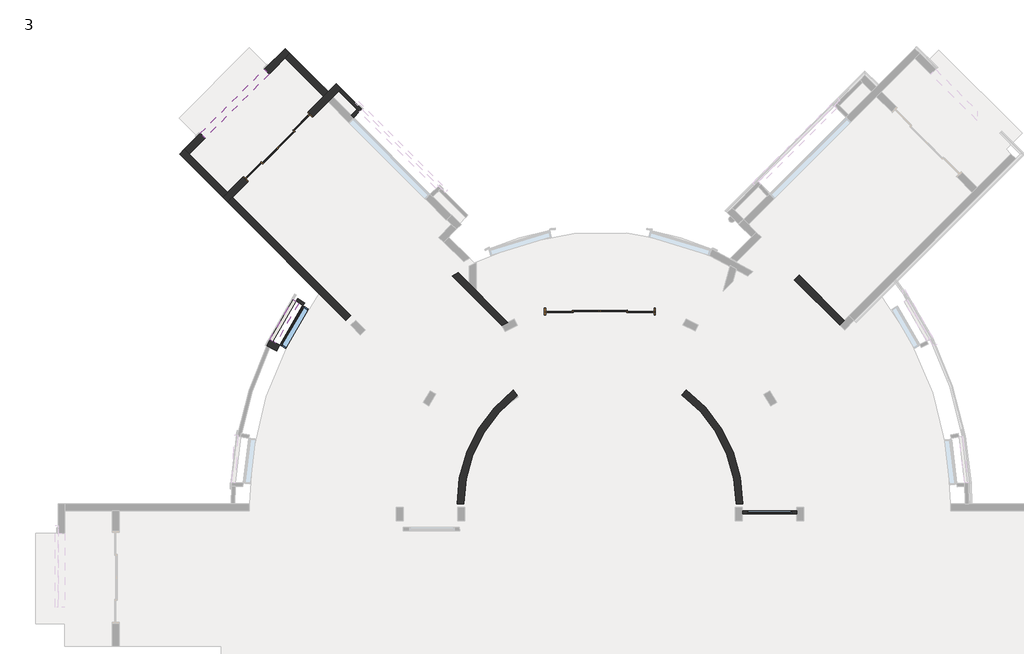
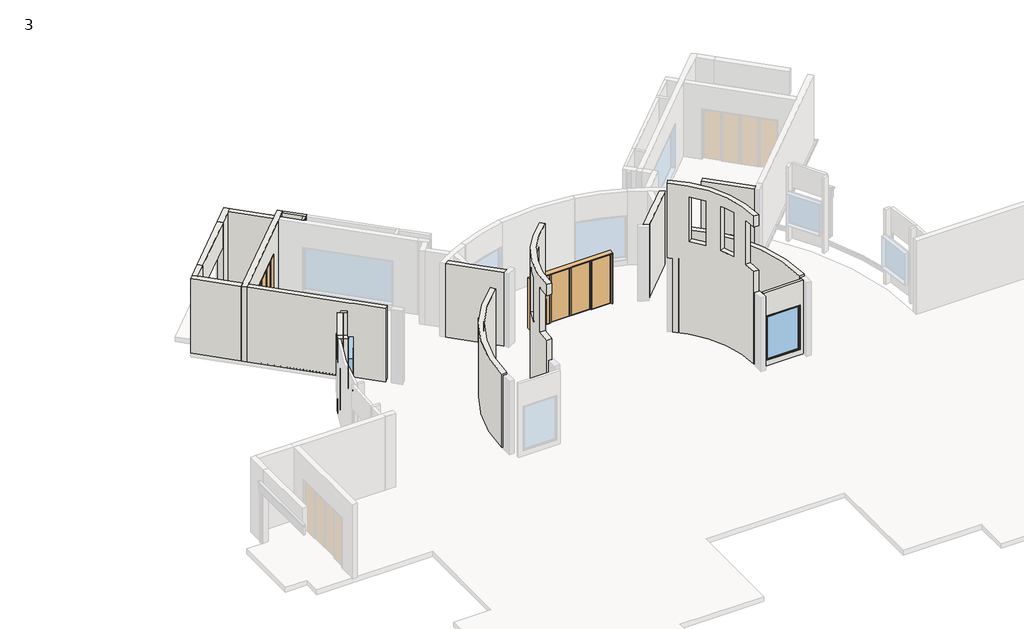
# One storey, part 3 of 12: 21 walls, 2 doors, 2 windows.
"""IFC4 building model written with IfcOpenShell, lengths in millimetres."""

from ifc_helpers import new_model, si_unit, point, frame, frame_2d, origin, place, context, project, spatial, polyline, circle_curve, trimmed, segment, composite_curve, outline, extrude, faceted_brep, transform, mapped, element, save
from ifc_brep_helpers import plane_surface, cylinder_surface, revolved_surface, advanced_brep
from components import aus_sliding_door_4_panel_type_2_6f79207a, aus_sliding_door_4_panel_type_3_7ec97240, fixed_w2_3_782477aa, fixed_w5f_2_3b2bf8fd

model = new_model("IFC4")

# Units and contexts
model_context = context("Model", 3, world=origin())
ifc_project = project(units=[si_unit("LENGTHUNIT", "METRE", prefix="MILLI")], contexts=[model_context])

# Site, building, storey
site = spatial("IfcSite", under=ifc_project)
building = spatial("IfcBuilding", under=site)
storey = spatial("IfcBuildingStorey", under=building, Name="3", Elevation=3581.4)

# Doors
placement = place(None, origin())
aus_sliding_door_4_panel_type_2_shape = aus_sliding_door_4_panel_type_2_6f79207a(model_context)
element("IfcDoor", 1, ObjectType="AUS_Sliding Door 4 Panel : Type 2", at=placement, inside=storey, context=model_context, shape_type="MappedRepresentation", body=[
    mapped(aus_sliding_door_4_panel_type_2_shape, transform((-8478.1790011, 7017.7979283, 3581.4), x_axis=(0.9999998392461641, 0.0005670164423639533, 0.0), y_axis=(-0.0005670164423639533, 0.9999998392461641, 0.0), z_axis=(0.0, 0.0, 1.0))),
])
aus_sliding_door_4_panel_type_3_shape = aus_sliding_door_4_panel_type_3_7ec97240(model_context)
element("IfcDoor", 2, ObjectType="AUS_Sliding Door 4 Panel : Type 3", at=placement, inside=storey, context=model_context, shape_type="MappedRepresentation", body=[
    mapped(aus_sliding_door_4_panel_type_3_shape, transform((-19173.9898785, 12624.9493931, 3581.4), x_axis=(-0.7071067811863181, -0.7071067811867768, 0.0), y_axis=(0.7071067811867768, -0.7071067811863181, 0.0), z_axis=(0.0, 0.0, 1.0))),
])

# Walls
element("IfcWall", 3, ObjectType="115mm  BK WALL 3", at=placement, inside=storey, context=model_context, shape_type="AdvancedBrep", body=[
    advanced_brep(
    [(-3587.7496752, 189.9806689, 3581.4), (-1759.1950906, 189.9806689, 3581.4), (-1759.1950906, 189.9806689, 7162.8), (-3587.7496752, 189.9806689, 7162.8), (-3435.5950906, 189.9806689, 3886.2), (-3435.5950906, 189.9806689, 6019.8), (-1911.5950906, 189.9806689, 6019.8), (-1911.5950906, 189.9806689, 3886.2), (-1759.1950906, 304.2806689, 3581.4), (-3580.8767334, 304.2806689, 3581.4), (-3580.8767334, 304.2806689, 7162.8), (-1759.1950906, 304.2806689, 7162.8), (-3435.5950906, 304.2806689, 6019.8), (-3435.5950906, 304.2806689, 3886.2), (-1911.5950906, 304.2806689, 3886.2), (-1911.5950906, 304.2806689, 6019.8)],
    [
        (0, 1),
        (1, 2),
        (2, 3),
        (3, 0),
        (4, 5),
        (5, 6),
        (6, 7),
        (7, 4),
        (8, 9),
        (9, 10),
        (10, 11),
        (11, 8),
        (12, 13),
        (13, 14),
        (14, 15),
        (15, 12),
        (0, 9, circle_curve(frame((-8388.5950906, 536.0156211, 3581.4), z_axis=(0.0, 0.0, 1.0), x_axis=(1.0, 0.0, 0.0)), 4813.3)),
        (8, 1),
        (11, 2),
        (10, 3, circle_curve(frame((-8388.5950906, 536.0156211, 7162.8), z_axis=(0.0, 0.0, -1.0), x_axis=(1.0, 0.0, 0.0)), 4813.3)),
        (12, 5),
        (4, 13),
        (7, 14),
        (6, 15),
    ],
    [
        plane_surface(frame((-3602.9930034, 189.9806689, 3581.4), z_axis=(0.0, -1.0, 0.0), x_axis=(1.0, 0.0, 0.0))),
        plane_surface(frame((-3602.9930034, 304.2806689, 3581.4), z_axis=(0.0, 1.0, 0.0), x_axis=(-1.0, 0.0, 0.0))),
        plane_surface(frame((-3698.4835264, 189.9806689, 3581.4), z_axis=(0.0, 0.0, -1.0), x_axis=(0.0, 1.0, 0.0))),
        plane_surface(frame((-1759.1950906, 189.9806689, 3581.4), z_axis=(1.0, 0.0, 0.0), x_axis=(0.0, 1.0, 0.0))),
        plane_surface(frame((-1759.1950906, 189.9806689, 7162.8), z_axis=(0.0, 0.0, 1.0), x_axis=(0.0, 1.0, 0.0))),
        revolved_surface(polyline([(-3575.2950905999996, 536.0156211, 7162.8), (-3575.2950905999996, 536.0156211, 3581.4)]), (-8388.5950906, 536.0156211, 3581.4), (0.0, 0.0, 1.0)),
        plane_surface(frame((-3435.5950906, -1219.7193311, 6019.8), z_axis=(1.0, 0.0, 0.0), x_axis=(0.0, 1.0, 0.0))),
        plane_surface(frame((-3435.5950906, -1219.7193311, 3886.2), z_axis=(0.0, 0.0, 1.0), x_axis=(0.0, 1.0, 0.0))),
        plane_surface(frame((-1911.5950906, -1219.7193311, 3886.2), z_axis=(-1.0, 0.0, 0.0), x_axis=(0.0, 1.0, 0.0))),
        plane_surface(frame((-1911.5950906, -1219.7193311, 6019.8), z_axis=(0.0, 0.0, -1.0), x_axis=(0.0, 1.0, 0.0))),
    ],
    [
        (0, [[1, 2, 3, 4], [5, 6, 7, 8]]),
        (1, [[9, 10, 11, 12], [13, 14, 15, 16]]),
        (2, [[-1, 17, -9, 18]]),
        (3, [[-2, -18, -12, 19]]),
        (4, [[-3, -19, -11, 20]]),
        (5, [[-4, -20, -10, -17]]),
        (6, [[21, -5, 22, -13]]),
        (7, [[-22, -8, 23, -14]]),
        (8, [[24, -15, -23, -7]]),
        (9, [[-21, -16, -24, -6]]),
    ],
),
])
element("IfcWall", 4, ObjectType="115mm BK WALL", at=placement, inside=storey, context=model_context, shape_type="Brep", body=[
    faceted_brep([(-17188.1173327, 14449.1773287, 3581.4), (-16571.0750719, 13832.1350679, 3581.4), (-16490.2527668, 13751.3127628, 3581.4), (-16490.2527668, 13751.3127628, 6019.8), (-16490.2527668, 13751.3127628, 7162.8), (-16571.0750719, 13832.1350679, 7162.8), (-17188.1173327, 14449.1773287, 7162.8), (-16409.4304618, 13832.1350679, 3581.4), (-17107.2950276, 14529.9996338, 3581.4), (-17107.2950276, 14529.9996338, 3733.8), (-17107.2950276, 14529.9996338, 3854.45), (-17107.2950276, 14529.9996338, 7162.8), (-16409.4304618, 13832.1350679, 7162.8), (-16409.4304618, 13832.1350679, 6515.1), (-16409.4304618, 13832.1350679, 6019.8), (-16409.4304618, 13832.1350679, 3860.8), (-16409.4304618, 13832.1350679, 3854.45), (-16409.4304618, 13832.1350679, 3733.8)], [[[0, 1, 2, 3, 4, 5, 6]], [[7, 8, 9, 10, 11, 12, 13, 14, 15, 16, 17]], [[2, 1, 0, 8, 7]], [[6, 5, 4, 12, 11]], [[2, 7, 17, 16, 15, 14, 13, 12, 4, 3]], [[0, 6, 11, 10, 9, 8]]]),
])
element("IfcWall", 5, ObjectType="115mm BK WALL", at=placement, inside=storey, context=model_context, shape_type="Brep", body=[
    faceted_brep([(-16571.0750719, 13832.1350679, 7162.8), (-16571.0750719, 13832.1350679, 3581.4), (-16770.3416182, 13632.8685217, 3581.4), (-16770.3416182, 13632.8685217, 7162.8), (-16490.2527668, 13751.3127628, 3581.4), (-16490.2527668, 13751.3127628, 7162.8), (-16689.5193131, 13552.0462166, 7162.8), (-16689.5193131, 13552.0462166, 6019.8), (-16689.5193131, 13552.0462166, 3886.2), (-16689.5193131, 13552.0462166, 3581.4)], [[[0, 1, 2, 3]], [[4, 5, 6, 7, 8, 9]], [[2, 1, 4, 9]], [[0, 3, 6, 5]], [[0, 5, 4, 1]], [[3, 2, 9, 8, 7, 6]]]),
])
element("IfcWall", 6, ObjectType="115mm BK WALL", at=placement, inside=storey, context=model_context, shape_type="SweptSolid", body=[
    extrude(outline(composite_curve([segment(polyline([(-18404.9130327, 7213.1009528), (-18627.5335334, 7363.1057226)]), True, "CONTINUOUS"), segment(trimmed(circle_curve(frame_2d((-8388.5950906, 536.0156211)), 12306.3), [point((-18627.5335334, 7363.1057226))], [point((-18563.6830763, 7457.9087273))], False, "CARTESIAN"), True, "CONTINUOUS"), segment(polyline([(-18563.6830763, 7457.9087273), (-18341.0425501, 7307.8904641)]), True, "CONTINUOUS"), segment(trimmed(circle_curve(frame_2d((-8388.5950906, 532.8806689)), 12039.6), [point((-18341.0425501, 7307.8904641))], [point((-18404.9130327, 7213.1009528))], True, "CARTESIAN"), True, "CONTINUOUS")], self_intersect=False)), frame((0.0, 0.0, 3581.4), z_axis=(0.0, 0.0, 1.0), x_axis=(1.0, 0.0, 0.0)), (0.0, 0.0, 1.0), 3581.4),
])
element("IfcWall", 7, ObjectType="115mm BK WALL 2", at=placement, inside=storey, context=model_context, shape_type="AdvancedBrep", body=[
    advanced_brep(
    [(-18727.2981567, 7419.5120633, 4495.8), (-19513.0216828, 6060.3651171, 4495.8), (-19410.66115, 6009.5044054, 4495.8), (-18632.1567175, 7356.167004, 4495.8), (-19513.0216828, 6060.3651171, 3581.4), (-18727.2981567, 7419.5120633, 3581.4), (-18632.1567175, 7356.167004, 3581.4), (-19410.66115, 6009.5044054, 3581.4), (-18727.2981567, 7419.5120633, 4311.65), (-18727.2981567, 7419.5120633, 3854.45), (-18727.2981567, 7419.5120633, 3733.8), (-19513.0216828, 6060.3651171, 3733.8), (-19513.0216828, 6060.3651171, 3854.45), (-19513.0216828, 6060.3651171, 4311.65)],
    [
        (0, 1, circle_curve(frame((-8388.5950904, 536.015621, 4495.8), z_axis=(0.0, 0.0, 1.0), x_axis=(1.0, 0.0, 0.0)), 12420.6000002)),
        (1, 2),
        (2, 3, circle_curve(frame((-8388.5950904, 536.015621, 4495.8), z_axis=(0.0, 0.0, -1.0), x_axis=(1.0, 0.0, 0.0)), 12306.3000002)),
        (3, 0),
        (4, 5, circle_curve(frame((-8388.5950904, 536.015621, 3581.4), z_axis=(0.0, 0.0, -1.0), x_axis=(1.0, 0.0, 0.0)), 12420.6000002)),
        (5, 6),
        (6, 7, circle_curve(frame((-8388.5950904, 536.015621, 3581.4), z_axis=(0.0, 0.0, 1.0), x_axis=(1.0, 0.0, 0.0)), 12306.3000002)),
        (7, 4),
        (0, 8),
        (8, 9),
        (9, 10),
        (10, 5),
        (4, 11),
        (11, 12),
        (12, 13),
        (13, 1),
        (2, 7),
        (6, 3),
    ],
    [
        plane_surface(frame((4032.0049098, 536.015621, 4495.8), z_axis=(0.0, 0.0, 1.0), x_axis=(0.0, 1.0, 0.0))),
        plane_surface(frame((4032.0049098, 536.015621, 3581.4), z_axis=(0.0, 0.0, -1.0), x_axis=(0.0, -1.0, 0.0))),
        cylinder_surface(frame((-8388.5950904, 536.015621, 3581.4), z_axis=(0.0, 0.0, 1.0), x_axis=(1.0, 0.0, 0.0)), 12420.6000002),
        revolved_surface(polyline([(3917.7049098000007, 536.015621, 3581.4), (3917.7049098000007, 536.015621, 4495.8)]), (-8388.5950904, 536.015621, 3581.4), (0.0, 0.0, -1.0)),
        plane_surface(frame((-18632.1567175, 7356.167004, 4495.8), z_axis=(0.5541999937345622, 0.8323835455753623, 0.0), x_axis=(0.0, 0.0, -1.0))),
        plane_surface(frame((-19410.66115, 6009.5044054, 3581.4), z_axis=(-0.4449755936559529, -0.8955426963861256, 0.0), x_axis=(-0.8955426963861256, 0.4449755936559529, 0.0))),
    ],
    [
        (0, [[1, 2, 3, 4]]),
        (1, [[5, 6, 7, 8]]),
        (2, [[-1, 9, 10, 11, 12, -5, 13, 14, 15, 16]]),
        (3, [[-3, 17, -7, 18]]),
        (4, [[-4, -18, -6, -12, -11, -10, -9]]),
        (5, [[-2, -16, -15, -14, -13, -8, -17]]),
    ],
),
])
element("IfcWall", 8, ObjectType="230mm BK WALL", at=placement, inside=storey, context=model_context, shape_type="Brep", body=[
    faceted_brep([(-16785.2423226, 6882.0295053, 3581.4), (-20770.2537393, 10867.040922, 3581.4), (-20770.2537393, 10867.040922, 7162.8), (-16785.2423226, 6882.0295053, 7162.8), (-20931.8983495, 10705.3963119, 3581.4), (-18277.6696289, 8051.1675913, 3581.4), (-18196.0919007, 7969.589863, 3581.4), (-18004.3403503, 7777.8383126, 3581.4), (-17841.0743596, 7614.5723219, 3581.4), (-16946.8869328, 6720.3848952, 3581.4), (-16946.8869328, 6720.3848952, 7162.8), (-17841.0743596, 7614.5723219, 7162.8), (-18004.3403503, 7777.8383126, 7162.8), (-18196.0919007, 7969.589863, 7162.8), (-18277.6696289, 8051.1675913, 7162.8), (-20931.8983495, 10705.3963119, 7162.8), (-20931.8983495, 10705.3963119, 3854.45), (-20931.8983495, 10705.3963119, 3733.8)], [[[0, 1, 2, 3]], [[4, 5, 6, 7, 8, 9, 10, 11, 12, 13, 14, 15, 16, 17]], [[1, 0, 9, 8, 7, 6, 5, 4]], [[3, 2, 15, 14, 13, 12, 11, 10]], [[0, 3, 10, 9]], [[2, 1, 4, 17, 16, 15]]]),
])
element("IfcWall", 9, ObjectType="230mm BK WALL", at=placement, inside=storey, context=model_context, shape_type="Brep", body=[
    faceted_brep([(-17107.2950276, 14529.9996338, 7162.8), (-17188.1173327, 14449.1773287, 7162.8), (-17387.383879, 14249.9107824, 7162.8), (-17549.0284891, 14088.2661722, 7162.8), (-20770.2537393, 10867.040922, 7162.8), (-20931.8983495, 10705.3963119, 7162.8), (-20931.8983495, 10705.3963119, 3581.4), (-20770.2537393, 10867.040922, 3581.4), (-20259.7226433, 11377.572018, 3581.4), (-20259.7226433, 11377.572018, 6059.8), (-18047.8926318, 13589.4020296, 6059.8), (-18047.8926318, 13589.4020296, 3581.4), (-17549.0284891, 14088.2661722, 3581.4), (-17387.383879, 14249.9107824, 3581.4), (-17188.1173327, 14449.1773287, 3581.4), (-17107.2950276, 14529.9996338, 3581.4), (-17107.2950276, 14529.9996338, 3733.8), (-17107.2950276, 14529.9996338, 3854.45), (-21093.5429597, 10867.040922, 7162.8), (-20931.8983495, 11028.6855322, 7162.8), (-17699.0061459, 14261.5777358, 7162.8), (-17537.3615358, 14423.222346, 7162.8), (-17268.9396378, 14691.644244, 7162.8), (-17268.9396378, 14691.644244, 3854.45), (-17268.9396378, 14691.644244, 3733.8), (-17268.9396378, 14691.644244, 3581.4), (-17537.3615358, 14423.222346, 3581.4), (-17699.0061459, 14261.5777358, 3581.4), (-18209.5372419, 13751.0466398, 3581.4), (-18209.5372419, 13751.0466398, 3733.8), (-18209.5372419, 13751.0466398, 3854.45), (-18209.5372419, 13751.0466398, 6059.8), (-20421.3672535, 11539.2166282, 6059.8), (-20421.3672535, 11539.2166282, 3854.45), (-20421.3672535, 11539.2166282, 3733.8), (-20421.3672535, 11539.2166282, 3581.4), (-20931.8983495, 11028.6855322, 3581.4), (-21093.5429597, 10867.040922, 3581.4)], [[[0, 1, 2, 3, 4, 5, 6, 7, 8, 9, 10, 11, 12, 13, 14, 15, 16, 17]], [[18, 19, 20, 21, 22, 23, 24, 25, 26, 27, 28, 29, 30, 31, 32, 33, 34, 35, 36, 37]], [[6, 37, 36, 35, 8, 7]], [[25, 15, 14, 13, 12, 11, 28, 27, 26]], [[5, 4, 3, 2, 1, 0, 22, 21, 20, 19, 18]], [[6, 5, 18, 37]], [[15, 25, 24, 23, 22, 0, 17, 16]], [[11, 10, 31, 30, 29, 28]], [[32, 31, 10, 9]], [[9, 8, 35, 34, 33, 32]]]),
])
element("IfcWall", 10, ObjectType="230mm BK WALL", at=placement, inside=storey, context=model_context, shape_type="AdvancedBrep", body=[
    advanced_brep(
    [(-13366.0780414, 8204.3327529, 3581.4), (-11699.8714866, 6539.3958793, 3581.4), (-11699.8714866, 6539.3958793, 7162.8), (-13366.0780414, 8204.3327529, 7162.8), (-13167.8230779, 8329.394931, 3581.4), (-13167.8230779, 8329.394931, 7162.8), (-12789.9399757, 7951.7997829, 7162.8), (-12561.3399757, 7723.3739805, 7162.8), (-11488.380409, 6651.2320294, 7162.8), (-11488.380409, 6651.2320294, 3581.4), (-12561.3399757, 7723.3739805, 3581.4), (-12789.9399757, 7951.7997829, 3581.4)],
    [
        (0, 1),
        (1, 2),
        (2, 3),
        (3, 0),
        (4, 5),
        (5, 6),
        (6, 7),
        (7, 8),
        (8, 9),
        (9, 10),
        (10, 11),
        (11, 4),
        (0, 4, circle_curve(frame((-8388.7443851, 533.6818239, 3581.4), z_axis=(0.0, 0.0, -1.0), x_axis=(1.0, 0.0, 0.0)), 9144.0)),
        (9, 1, circle_curve(frame((-8388.7443851, 533.6818239, 3581.4), z_axis=(0.0, 0.0, 1.0), x_axis=(1.0, 0.0, 0.0)), 6857.9999998)),
        (2, 8, circle_curve(frame((-8388.7443851, 533.6818239, 7162.8), z_axis=(0.0, 0.0, -1.0), x_axis=(1.0, 0.0, 0.0)), 6857.9999998)),
        (5, 3, circle_curve(frame((-8388.7443851, 533.6818239, 7162.8), z_axis=(0.0, 0.0, 1.0), x_axis=(1.0, 0.0, 0.0)), 9144.0)),
    ],
    [
        plane_surface(frame((-13224.7079982, 8063.0704363, 3581.4), z_axis=(-0.706837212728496, -0.7073762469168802, 0.0), x_axis=(0.7073762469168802, -0.706837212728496, 0.0))),
        plane_surface(frame((-13063.1250114, 8224.7766464, 3581.4), z_axis=(0.706837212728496, 0.7073762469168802, 0.0), x_axis=(-0.7073762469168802, 0.706837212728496, 0.0))),
        plane_surface(frame((-13431.1664082, 8269.371521, 3581.4), z_axis=(0.0, 0.0, -1.0), x_axis=(0.7068372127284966, 0.7073762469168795, 0.0))),
        plane_surface(frame((-11591.0062677, 6430.6136177, 7162.8), z_axis=(0.0, 0.0, 1.0), x_axis=(0.7068372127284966, 0.7073762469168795, 0.0))),
        revolved_surface(polyline([(-1530.7443853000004, 533.6818239, 7162.8), (-1530.7443853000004, 533.6818239, 3581.4)]), (-8388.7443851, 533.6818239, 3581.4), (0.0, 0.0, 1.0)),
        cylinder_surface(frame((-8388.7443851, 533.6818239, 3581.4), z_axis=(0.0, 0.0, -1.0), x_axis=(1.0, 0.0, 0.0)), 9144.0),
    ],
    [
        (0, [[1, 2, 3, 4]]),
        (1, [[5, 6, 7, 8, 9, 10, 11, 12]]),
        (2, [[-1, 13, -12, -11, -10, 14]]),
        (3, [[-3, 15, -8, -7, -6, 16]]),
        (4, [[-2, -14, -9, -15]]),
        (5, [[-4, -16, -5, -13]]),
    ],
),
])
element("IfcWall", 11, ObjectType="230mm BK WALL", at=placement, inside=storey, context=model_context, shape_type="Brep", body=[
    faceted_brep([(-20931.8983495, 11028.6855322, 3581.4), (-22227.6506425, 12324.4378252, 3581.4), (-22389.2952527, 12486.0824354, 3581.4), (-22389.2952527, 12486.0824354, 3733.8), (-22389.2952527, 12486.0824354, 3854.45), (-22389.2952527, 12486.0824354, 7162.8), (-22227.6506425, 12324.4378252, 7162.8), (-20931.8983495, 11028.6855322, 7162.8), (-22550.9398629, 12324.4378252, 3581.4), (-21093.5429597, 10867.040922, 3581.4), (-21093.5429597, 10867.040922, 3733.8), (-21093.5429597, 10867.040922, 3854.45), (-21093.5429597, 10867.040922, 7162.8), (-22550.9398629, 12324.4378252, 7162.8), (-22550.9398629, 12324.4378252, 3854.45), (-22550.9398629, 12324.4378252, 3733.8)], [[[0, 1, 2, 3, 4, 5, 6, 7]], [[8, 9, 10, 11, 12, 13, 14, 15]], [[2, 1, 0, 9, 8]], [[7, 6, 5, 13, 12]], [[2, 8, 15, 14, 13, 5, 4, 3]], [[0, 7, 12, 11, 10, 9]]]),
])
element("IfcWall", 12, ObjectType="230mm BK WALL", at=placement, inside=storey, context=model_context, shape_type="Brep", body=[
    faceted_brep([(-22227.6506425, 12324.4378252, 3581.4), (-21688.8352753, 12863.2531925, 3581.4), (-21688.8352753, 12863.2531925, 6019.8), (-21688.8352753, 12863.2531925, 7162.8), (-22227.6506425, 12324.4378252, 7162.8), (-22389.2952527, 12486.0824354, 7162.8), (-21850.4798855, 13024.8978027, 7162.8), (-21850.4798855, 13024.8978027, 6515.1), (-21850.4798855, 13024.8978027, 6019.8), (-21850.4798855, 13024.8978027, 3854.45), (-21850.4798855, 13024.8978027, 3733.8), (-21850.4798855, 13024.8978027, 3581.4), (-21980.6935992, 12894.6840889, 3581.4), (-22389.2952527, 12486.0824354, 3581.4), (-22389.2952527, 12486.0824354, 3733.8), (-22389.2952527, 12486.0824354, 3854.45)], [[[0, 1, 2, 3, 4]], [[5, 6, 7, 8, 9, 10, 11, 12, 13, 14, 15]], [[1, 0, 13, 12, 11]], [[3, 2, 1, 11, 10, 9, 8, 7, 6]], [[4, 3, 6, 5]], [[0, 4, 5, 15, 14, 13]]]),
])
element("IfcWall", 13, ObjectType="230mm BK WALL", at=placement, inside=storey, context=model_context, shape_type="Brep", body=[
    faceted_brep([(-19533.5738062, 15018.5146616, 3581.4), (-18994.758439, 15557.3300288, 3581.4), (-18833.1138288, 15718.974639, 3581.4), (-18833.1138288, 15718.974639, 3733.8), (-18833.1138288, 15718.974639, 3854.45), (-18833.1138288, 15718.974639, 7162.8), (-18994.758439, 15557.3300288, 7162.8), (-19533.5738062, 15018.5146616, 7162.8), (-19533.5738062, 15018.5146616, 6019.8), (-19695.2184164, 15180.1592717, 7162.8), (-18994.758439, 15880.6192492, 7162.8), (-18994.758439, 15880.6192492, 3854.45), (-18994.758439, 15880.6192492, 3733.8), (-18994.758439, 15880.6192492, 3581.4), (-19565.0047027, 15310.3729855, 3581.4), (-19695.2184164, 15180.1592717, 3581.4), (-19695.2184164, 15180.1592717, 3733.8), (-19695.2184164, 15180.1592717, 3854.45), (-19695.2184164, 15180.1592717, 6019.8), (-19695.2184164, 15180.1592717, 6515.1)], [[[0, 1, 2, 3, 4, 5, 6, 7, 8]], [[9, 10, 11, 12, 13, 14, 15, 16, 17, 18, 19]], [[2, 1, 0, 15, 14, 13]], [[7, 6, 5, 10, 9]], [[0, 8, 7, 9, 19, 18, 17, 16, 15]], [[2, 13, 12, 11, 10, 5, 4, 3]]]),
])
element("IfcWall", 14, ObjectType="230mm BK WALL", at=placement, inside=storey, context=model_context, shape_type="Brep", body=[
    faceted_brep([(-18994.758439, 15557.3300288, 3581.4), (-17699.0061459, 14261.5777358, 3581.4), (-17699.0061459, 14261.5777358, 7162.8), (-18994.758439, 15557.3300288, 7162.8), (-17537.3615358, 14423.222346, 3581.4), (-18833.1138288, 15718.974639, 3581.4), (-18833.1138288, 15718.974639, 3733.8), (-18833.1138288, 15718.974639, 3854.45), (-18833.1138288, 15718.974639, 7162.8), (-17537.3615358, 14423.222346, 7162.8), (-17537.3615358, 14423.222346, 3854.45), (-17537.3615358, 14423.222346, 3733.8)], [[[0, 1, 2, 3]], [[4, 5, 6, 7, 8, 9, 10, 11]], [[1, 0, 5, 4]], [[3, 2, 9, 8]], [[0, 3, 8, 7, 6, 5]], [[2, 1, 4, 11, 10, 9]]]),
])
element("IfcWall", 15, ObjectType="230mm BK WALL", at=placement, inside=storey, context=model_context, shape_type="AdvancedBrep", body=[
    advanced_brep(
    [(-5075.6425889, 6538.3067485, 3581.4), (-3410.3226967, 8203.6266407, 3581.4), (-3410.3226967, 8203.6266407, 7162.8), (-5075.6425889, 6538.3067485, 7162.8), (-5287.0499288, 6650.188629, 3581.4), (-5287.0499288, 6650.188629, 7162.8), (-4232.6615049, 7704.5770529, 7162.8), (-3909.3722846, 8027.8662732, 7162.8), (-3608.5361768, 8328.702381, 7162.8), (-3608.5361768, 8328.702381, 3581.4), (-3909.3722846, 8027.8662732, 3581.4), (-4232.6615049, 7704.5770529, 3581.4)],
    [
        (0, 1),
        (1, 2),
        (2, 3),
        (3, 0),
        (4, 5),
        (5, 6),
        (6, 7),
        (7, 8),
        (8, 9),
        (9, 10),
        (10, 11),
        (11, 4),
        (0, 4, circle_curve(frame((-8388.7443851, 533.6818239, 3581.4), z_axis=(0.0, 0.0, 1.0), x_axis=(1.0, 0.0, 0.0)), 6857.9999998)),
        (9, 1, circle_curve(frame((-8388.7443851, 533.6818239, 3581.4), z_axis=(0.0, 0.0, -1.0), x_axis=(1.0, 0.0, 0.0)), 9144.0)),
        (2, 8, circle_curve(frame((-8388.7443851, 533.6818239, 7162.8), z_axis=(0.0, 0.0, 1.0), x_axis=(1.0, 0.0, 0.0)), 9144.0)),
        (5, 3, circle_curve(frame((-8388.7443851, 533.6818239, 7162.8), z_axis=(0.0, 0.0, -1.0), x_axis=(1.0, 0.0, 0.0)), 6857.9999998)),
    ],
    [
        plane_surface(frame((-5089.4717419, 6524.4775955, 3581.4), z_axis=(0.7071067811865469, -0.7071067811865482, 0.0), x_axis=(0.7071067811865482, 0.7071067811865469, 0.0))),
        plane_surface(frame((-5251.1163521, 6686.1222057, 3581.4), z_axis=(-0.7071067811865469, 0.7071067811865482, 0.0), x_axis=(-0.7071067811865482, -0.7071067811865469, 0.0))),
        plane_surface(frame((-5184.3847083, 6429.5646291, 3581.4), z_axis=(0.0, 0.0, -1.0), x_axis=(-0.7071067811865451, 0.7071067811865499, 0.0))),
        plane_surface(frame((-3345.2244632, 8268.7248742, 7162.8), z_axis=(0.0, 0.0, 1.0000000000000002), x_axis=(-0.7071067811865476, 0.7071067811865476, 0.0))),
        revolved_surface(polyline([(-1530.7443853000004, 533.6818239, 7162.8), (-1530.7443853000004, 533.6818239, 3581.4)]), (-8388.7443851, 533.6818239, 3581.4), (0.0, 0.0, 1.0)),
        cylinder_surface(frame((-8388.7443851, 533.6818239, 3581.4), z_axis=(0.0, 0.0, -1.0), x_axis=(1.0, 0.0, 0.0)), 9144.0),
    ],
    [
        (0, [[1, 2, 3, 4]]),
        (1, [[5, 6, 7, 8, 9, 10, 11, 12]]),
        (2, [[-1, 13, -12, -11, -10, 14]]),
        (3, [[-3, 15, -8, -7, -6, 16]]),
        (4, [[-4, -16, -5, -13]]),
        (5, [[-2, -14, -9, -15]]),
    ],
),
])
element("IfcWall", 16, ObjectType="230mm BK WALL", at=placement, inside=storey, context=model_context, shape_type="SweptSolid", body=[
    extrude(outline(polyline([(-1678.3727855, 8245.911433), (-153.2193581, 6720.7580057), (-314.8639683, 6559.1133955), (-1840.0173957, 8084.2668229), (-1678.3727855, 8245.911433)])), frame((0.0, 0.0, 3581.4), z_axis=(0.0, 0.0, 1.0), x_axis=(1.0, 0.0, 0.0)), (0.0, 0.0, 1.0), 3581.4),
])
element("IfcWall", 17, ObjectType="230mm BK WALL", at=placement, inside=storey, context=model_context, shape_type="SweptSolid", body=[
    extrude(outline(composite_curve([segment(polyline([(-4250.7725905, 5715.5300113), (-4108.089056, 5894.1339558)]), True, "CONTINUOUS"), segment(trimmed(circle_curve(frame_2d((-8388.5950906, 536.0156211)), 6858.0), [point((-4108.089056, 5894.1339558))], [point((-1530.5950906, 536.0156211))], False, "CARTESIAN"), True, "CONTINUOUS"), segment(polyline([(-1530.5950906, 536.0156211), (-1759.1950906, 536.0156211)]), True, "CONTINUOUS"), segment(trimmed(circle_curve(frame_2d((-8388.5950906, 536.0156211)), 6629.4), [point((-1759.1950906, 536.0156211))], [point((-4250.7725905, 5715.5300113))], True, "CARTESIAN"), True, "CONTINUOUS")], self_intersect=False)), frame((0.0, 0.0, 3581.4), z_axis=(0.0, 0.0, 1.0), x_axis=(1.0, 0.0, 0.0)), (0.0, 0.0, 1.0), 3581.4),
])
element("IfcWall", 18, ObjectType="230mm BK WALL", at=placement, inside=storey, context=model_context, shape_type="AdvancedBrep", body=[
    advanced_brep(
    [(-5627.9993073, 4196.4233868, 10744.2), (-3803.8950906, 536.0156211, 10744.2), (-3575.2950906, 536.0156211, 10744.2), (-5490.3518721, 4378.9367934, 10744.2), (-3803.8950906, 536.0156211, 3581.4), (-5627.9993073, 4196.4233868, 3581.4), (-5490.3518721, 4378.9367934, 3581.4), (-3575.2950906, 536.0156211, 3581.4), (-5627.9993073, 4196.4233868, 10741.6847463), (-5627.9993073, 4196.4233868, 7162.8), (-3803.8950906, 536.0156211, 8077.2), (-3843.3854112, 1136.4680011, 8077.2), (-3843.3854112, 1136.4680011, 10210.8), (-3803.8950906, 536.0156211, 10210.8), (-4549.0108274, 3041.4231281, 10210.8), (-4549.0108274, 3041.4231281, 8077.2), (-4974.1740248, 3595.623909, 8077.2), (-4974.1740248, 3595.623909, 10210.8), (-3980.5416338, 1796.3881105, 10210.8), (-3980.5416338, 1796.3881105, 8077.2), (-4223.1668599, 2451.3959346, 8077.2), (-4223.1668599, 2451.3959346, 10210.8), (-3575.2950906, 536.0156211, 10210.8), (-3575.2950906, 536.0156211, 8077.2), (-3614.4988257, 1149.0912639, 10210.8), (-3614.4988257, 1149.0912639, 8077.2), (-5490.3518721, 4378.9367934, 7162.8), (-5490.3518721, 4378.9367934, 10741.6847463), (-4367.1326737, 3180.9536015, 10210.8), (-4792.2958711, 3735.1543824, 10210.8), (-4792.2958711, 3735.1543824, 8077.2), (-4367.1326737, 3180.9536015, 8077.2), (-3765.5805262, 1876.0130942, 10210.8), (-4008.2057524, 2531.0209183, 10210.8), (-4008.2057524, 2531.0209183, 8077.2), (-3765.5805262, 1876.0130942, 8077.2)],
    [
        (0, 1, circle_curve(frame((-8388.5950906, 536.0156211, 10744.2), z_axis=(0.0, 0.0, -1.0), x_axis=(1.0, 0.0, 0.0)), 4584.7)),
        (1, 2),
        (2, 3, circle_curve(frame((-8388.5950906, 536.0156211, 10744.2), z_axis=(0.0, 0.0, 1.0), x_axis=(1.0, 0.0, 0.0)), 4813.3)),
        (3, 0),
        (4, 5, circle_curve(frame((-8388.5950906, 536.0156211, 3581.4), z_axis=(0.0, 0.0, 1.0), x_axis=(1.0, 0.0, 0.0)), 4584.7)),
        (5, 6),
        (6, 7, circle_curve(frame((-8388.5950906, 536.0156211, 3581.4), z_axis=(0.0, 0.0, -1.0), x_axis=(1.0, 0.0, 0.0)), 4813.3)),
        (7, 4),
        (0, 8),
        (8, 9),
        (9, 5),
        (4, 10),
        (10, 11, circle_curve(frame((-8388.5950906, 536.0156211, 8077.2), z_axis=(0.0, 0.0, 1.0), x_axis=(1.0, 0.0, 0.0)), 4584.7)),
        (11, 12),
        (12, 13, circle_curve(frame((-8388.5950906, 536.0156211, 10210.8), z_axis=(0.0, 0.0, -1.0), x_axis=(1.0, 0.0, 0.0)), 4584.7)),
        (13, 1),
        (14, 15),
        (15, 16, circle_curve(frame((-8388.5950906, 536.0156211, 8077.2), z_axis=(0.0, 0.0, 1.0), x_axis=(1.0, 0.0, 0.0)), 4584.7)),
        (16, 17),
        (17, 14, circle_curve(frame((-8388.5950906, 536.0156211, 10210.8), z_axis=(0.0, 0.0, -1.0), x_axis=(1.0, 0.0, 0.0)), 4584.7)),
        (18, 19),
        (19, 20, circle_curve(frame((-8388.5950906, 536.0156211, 8077.2), z_axis=(0.0, 0.0, 1.0), x_axis=(1.0, 0.0, 0.0)), 4584.7)),
        (20, 21),
        (21, 18, circle_curve(frame((-8388.5950906, 536.0156211, 10210.8), z_axis=(0.0, 0.0, -1.0), x_axis=(1.0, 0.0, 0.0)), 4584.7)),
        (13, 22),
        (22, 2),
        (7, 23),
        (23, 10),
        (22, 24, circle_curve(frame((-8388.5950906, 536.0156211, 10210.8), z_axis=(0.0, 0.0, 1.0), x_axis=(1.0, 0.0, 0.0)), 4813.3)),
        (24, 25),
        (25, 23, circle_curve(frame((-8388.5950906, 536.0156211, 8077.2), z_axis=(0.0, 0.0, -1.0), x_axis=(1.0, 0.0, 0.0)), 4813.3)),
        (6, 26),
        (26, 27),
        (27, 3),
        (28, 29, circle_curve(frame((-8388.5950906, 536.0156211, 10210.8), z_axis=(0.0, 0.0, 1.0), x_axis=(1.0, 0.0, 0.0)), 4813.3)),
        (29, 30),
        (30, 31, circle_curve(frame((-8388.5950906, 536.0156211, 8077.2), z_axis=(0.0, 0.0, -1.0), x_axis=(1.0, 0.0, 0.0)), 4813.3)),
        (31, 28),
        (32, 33, circle_curve(frame((-8388.5950906, 536.0156211, 10210.8), z_axis=(0.0, 0.0, 1.0), x_axis=(1.0, 0.0, 0.0)), 4813.3)),
        (33, 34),
        (34, 35, circle_curve(frame((-8388.5950906, 536.0156211, 8077.2), z_axis=(0.0, 0.0, -1.0), x_axis=(1.0, 0.0, 0.0)), 4813.3)),
        (35, 32),
        (25, 11),
        (24, 12),
        (14, 28),
        (31, 15),
        (30, 16),
        (29, 17),
        (18, 32),
        (35, 19),
        (34, 20),
        (33, 21),
    ],
    [
        plane_surface(frame((-3803.8950906, 536.0156211, 10744.2), z_axis=(0.0, 0.0, 1.0), x_axis=(0.0, -1.0, 0.0))),
        plane_surface(frame((-3803.8950906, 536.0156211, 3581.4), z_axis=(0.0, 0.0, -1.0), x_axis=(0.0, 1.0, 0.0))),
        revolved_surface(polyline([(-3803.8950906, 536.0156211, 3581.4), (-3803.8950906, 536.0156211, 10744.2)]), (-8388.5950906, 536.0156211, 3581.4), (0.0, 0.0, -1.0)),
        plane_surface(frame((-3803.8950906, 536.0156211, 10744.2), z_axis=(0.0, -1.0, 0.0), x_axis=(0.0, 0.0, -1.0))),
        cylinder_surface(frame((-8388.5950906, 536.0156211, 3581.4), z_axis=(0.0, 0.0, 1.0), x_axis=(1.0, 0.0, 0.0)), 4813.3),
        plane_surface(frame((-5490.3518721, 4378.9367934, 10744.2), z_axis=(-0.7983963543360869, 0.6021322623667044, 0.0), x_axis=(0.0, 0.0, -1.0))),
        plane_surface(frame((-2054.9803689, 535.5383758, 8077.2), z_axis=(0.0, 0.0, 1.0000000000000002), x_axis=(-0.998482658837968, -0.055067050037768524, 0.0))),
        plane_surface(frame((-2093.4447033, 1232.978513, 8077.2), z_axis=(0.055067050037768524, -0.998482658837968, 0.0), x_axis=(-0.998482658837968, -0.055067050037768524, 0.0))),
        plane_surface(frame((-2093.4447033, 1232.978513, 10210.8), z_axis=(0.0, 0.0, -1.0000000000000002), x_axis=(-0.998482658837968, -0.055067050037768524, 0.0))),
        plane_surface(frame((-4549.0108274, 3041.4231281, 10210.8), z_axis=(-0.6086803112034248, 0.7934155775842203, 0.0), x_axis=(0.7934155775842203, 0.6086803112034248, 0.0))),
        plane_surface(frame((-4549.0108274, 3041.4231281, 8077.2), z_axis=(0.0, 0.0, 1.0000000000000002), x_axis=(0.7934155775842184, 0.6086803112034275, 0.0))),
        plane_surface(frame((-4974.1740248, 3595.623909, 8077.2), z_axis=(0.6086803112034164, -0.7934155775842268, 0.0), x_axis=(0.7934155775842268, 0.6086803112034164, 0.0))),
        plane_surface(frame((-4974.1740248, 3595.623909, 10210.8), z_axis=(0.0, 0.0, -1.0), x_axis=(0.7934155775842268, 0.6086803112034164, 0.0))),
        plane_surface(frame((-3980.5416338, 1796.3881105, 10210.8), z_axis=(-0.34735179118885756, 0.9377348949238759, 0.0), x_axis=(0.9377348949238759, 0.34735179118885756, 0.0))),
        plane_surface(frame((-3980.5416338, 1796.3881105, 8077.2), z_axis=(0.0, 0.0, 1.0000000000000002), x_axis=(0.9377348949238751, 0.34735179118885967, 0.0))),
        plane_surface(frame((-4223.1668599, 2451.3959346, 8077.2), z_axis=(0.3473517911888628, -0.9377348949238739, 0.0), x_axis=(0.9377348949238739, 0.3473517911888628, 0.0))),
        plane_surface(frame((-4223.1668599, 2451.3959346, 10210.8), z_axis=(0.0, 0.0, -1.0), x_axis=(0.9377348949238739, 0.3473517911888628, 0.0))),
    ],
    [
        (0, [[1, 2, 3, 4]]),
        (1, [[5, 6, 7, 8]]),
        (2, [[-1, 9, 10, 11, -5, 12, 13, 14, 15, 16], [17, 18, 19, 20], [21, 22, 23, 24]]),
        (3, [[-2, -16, 25, 26]]),
        (3, [[-8, 27, 28, -12]]),
        (4, [[-3, -26, 29, 30, 31, -27, -7, 32, 33, 34], [35, 36, 37, 38], [39, 40, 41, 42]]),
        (5, [[-4, -34, -33, -32, -6, -11, -10, -9]]),
        (6, [[43, -13, -28, -31]]),
        (7, [[-43, -30, 44, -14]]),
        (8, [[-44, -29, -25, -15]]),
        (9, [[-17, 45, -38, 46]]),
        (10, [[-18, -46, -37, 47]]),
        (11, [[-19, -47, -36, 48]]),
        (12, [[-20, -48, -35, -45]]),
        (13, [[-21, 49, -42, 50]]),
        (14, [[-22, -50, -41, 51]]),
        (15, [[-23, -51, -40, 52]]),
        (16, [[-24, -52, -39, -49]]),
    ],
),
])
element("IfcWall", 19, ObjectType="230mm BK WALL", at=placement, inside=storey, context=model_context, shape_type="AdvancedBrep", body=[
    advanced_brep(
    [(-12973.2950906, 536.0156211, 10744.2), (-11167.7485421, 4182.3535351, 10744.2), (-11306.3212904, 4364.1653978, 10744.2), (-13201.8950906, 536.0156211, 10744.2), (-11167.7485421, 4182.3535351, 3581.4), (-12973.2950906, 536.0156211, 3581.4), (-13201.8950906, 536.0156211, 3581.4), (-11306.3212904, 4364.1653978, 3581.4), (-12973.2950906, 536.0156211, 10210.8), (-12933.8047699, 1136.4680011, 10210.8), (-12933.8047699, 1136.4680011, 8077.2), (-12973.2950906, 536.0156211, 8077.2), (-11167.7485421, 4182.3535351, 7162.8), (-11167.7485421, 4182.3535351, 10741.6847463), (-12228.1793538, 3041.4231281, 8077.2), (-12228.1793538, 3041.4231281, 10210.8), (-11803.0161564, 3595.623909, 10210.8), (-11803.0161564, 3595.623909, 8077.2), (-12796.6485474, 1796.3881105, 10210.8), (-12554.0233212, 2451.3959346, 10210.8), (-12554.0233212, 2451.3959346, 8077.2), (-12796.6485474, 1796.3881105, 8077.2), (-11306.3212904, 4364.1653978, 7162.8), (-11306.3212904, 4364.1653978, 10741.6847463), (-13201.8950906, 536.0156211, 8077.2), (-13162.6913554, 1149.0912639, 8077.2), (-13162.6913554, 1149.0912639, 10210.8), (-13201.8950906, 536.0156211, 10210.8), (-12410.0575074, 3180.9536015, 10210.8), (-12410.0575074, 3180.9536015, 8077.2), (-11984.89431, 3735.1543824, 8077.2), (-11984.89431, 3735.1543824, 10210.8), (-13011.6096549, 1876.0130942, 10210.8), (-13011.6096549, 1876.0130942, 8077.2), (-12768.9844288, 2531.0209183, 8077.2), (-12768.9844288, 2531.0209183, 10210.8)],
    [
        (0, 1, circle_curve(frame((-8388.5950906, 536.0156211, 10744.2), z_axis=(0.0, 0.0, -1.0), x_axis=(1.0, 0.0, 0.0)), 4584.7)),
        (1, 2),
        (2, 3, circle_curve(frame((-8388.5950906, 536.0156211, 10744.2), z_axis=(0.0, 0.0, 1.0), x_axis=(1.0, 0.0, 0.0)), 4813.3)),
        (3, 0),
        (4, 5, circle_curve(frame((-8388.5950906, 536.0156211, 3581.4), z_axis=(0.0, 0.0, 1.0), x_axis=(1.0, 0.0, 0.0)), 4584.7)),
        (5, 6),
        (6, 7, circle_curve(frame((-8388.5950906, 536.0156211, 3581.4), z_axis=(0.0, 0.0, -1.0), x_axis=(1.0, 0.0, 0.0)), 4813.3)),
        (7, 4),
        (0, 8),
        (8, 9, circle_curve(frame((-8388.5950906, 536.0156211, 10210.8), z_axis=(0.0, 0.0, -1.0), x_axis=(1.0, 0.0, 0.0)), 4584.7)),
        (9, 10),
        (10, 11, circle_curve(frame((-8388.5950906, 536.0156211, 8077.2), z_axis=(0.0, 0.0, 1.0), x_axis=(1.0, 0.0, 0.0)), 4584.7)),
        (11, 5),
        (4, 12),
        (12, 13),
        (13, 1),
        (14, 15),
        (15, 16, circle_curve(frame((-8388.5950906, 536.0156211, 10210.8), z_axis=(0.0, 0.0, -1.0), x_axis=(1.0, 0.0, 0.0)), 4584.7)),
        (16, 17),
        (17, 14, circle_curve(frame((-8388.5950906, 536.0156211, 8077.2), z_axis=(0.0, 0.0, 1.0), x_axis=(1.0, 0.0, 0.0)), 4584.7)),
        (18, 19, circle_curve(frame((-8388.5950906, 536.0156211, 10210.8), z_axis=(0.0, 0.0, -1.0), x_axis=(1.0, 0.0, 0.0)), 4584.7)),
        (19, 20),
        (20, 21, circle_curve(frame((-8388.5950906, 536.0156211, 8077.2), z_axis=(0.0, 0.0, 1.0), x_axis=(1.0, 0.0, 0.0)), 4584.7)),
        (21, 18),
        (7, 22),
        (22, 23),
        (23, 2),
        (6, 24),
        (24, 25, circle_curve(frame((-8388.5950906, 536.0156211, 8077.2), z_axis=(0.0, 0.0, -1.0), x_axis=(1.0, 0.0, 0.0)), 4813.3)),
        (25, 26),
        (26, 27, circle_curve(frame((-8388.5950906, 536.0156211, 10210.8), z_axis=(0.0, 0.0, 1.0), x_axis=(1.0, 0.0, 0.0)), 4813.3)),
        (27, 3),
        (28, 29),
        (29, 30, circle_curve(frame((-8388.5950906, 536.0156211, 8077.2), z_axis=(0.0, 0.0, -1.0), x_axis=(1.0, 0.0, 0.0)), 4813.3)),
        (30, 31),
        (31, 28, circle_curve(frame((-8388.5950906, 536.0156211, 10210.8), z_axis=(0.0, 0.0, 1.0), x_axis=(1.0, 0.0, 0.0)), 4813.3)),
        (32, 33),
        (33, 34, circle_curve(frame((-8388.5950906, 536.0156211, 8077.2), z_axis=(0.0, 0.0, -1.0), x_axis=(1.0, 0.0, 0.0)), 4813.3)),
        (34, 35),
        (35, 32, circle_curve(frame((-8388.5950906, 536.0156211, 10210.8), z_axis=(0.0, 0.0, 1.0), x_axis=(1.0, 0.0, 0.0)), 4813.3)),
        (27, 8),
        (11, 24),
        (10, 25),
        (9, 26),
        (28, 15),
        (14, 29),
        (17, 30),
        (16, 31),
        (32, 18),
        (21, 33),
        (20, 34),
        (19, 35),
    ],
    [
        plane_surface(frame((-3803.8950906, 536.0156211, 10744.2), z_axis=(0.0, 0.0, 1.0), x_axis=(0.0, -1.0, 0.0))),
        plane_surface(frame((-3803.8950906, 536.0156211, 3581.4), z_axis=(0.0, 0.0, -1.0), x_axis=(0.0, 1.0, 0.0))),
        revolved_surface(polyline([(-3803.8950906, 536.0156211, 3581.4), (-3803.8950906, 536.0156211, 10744.2)]), (-8388.5950906, 536.0156211, 3581.4), (0.0, 0.0, -1.0)),
        plane_surface(frame((-11167.7485421, 4182.3535351, 10744.2), z_axis=(0.7953274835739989, 0.6061800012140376, 0.0), x_axis=(0.0, 0.0, -1.0))),
        cylinder_surface(frame((-8388.5950906, 536.0156211, 3581.4), z_axis=(0.0, 0.0, 1.0), x_axis=(1.0, 0.0, 0.0)), 4813.3),
        plane_surface(frame((-13201.8950906, 536.0156211, 10744.2), z_axis=(0.0, -1.0, 0.0), x_axis=(0.0, 0.0, -1.0))),
        plane_surface(frame((-11678.8346681, 367.6940073, 8077.2), z_axis=(0.0, 0.0, 1.0000000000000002), x_axis=(-0.9984826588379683, 0.05506705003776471, 0.0))),
        plane_surface(frame((-11640.3703337, 1065.1341444, 8077.2), z_axis=(-0.05506705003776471, -0.9984826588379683, 0.0), x_axis=(-0.9984826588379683, 0.05506705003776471, 0.0))),
        plane_surface(frame((-11640.3703337, 1065.1341444, 10210.8), z_axis=(0.0, 0.0, -1.0000000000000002), x_axis=(-0.9984826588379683, 0.05506705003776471, 0.0))),
        plane_surface(frame((-11200.3888146, 2252.9386529, 10210.8), z_axis=(0.6086803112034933, 0.7934155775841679, 0.0), x_axis=(-0.7934155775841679, 0.6086803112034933, 0.0))),
        plane_surface(frame((-11200.3888146, 2252.9386529, 8077.2), z_axis=(0.0, 0.0, 1.0000000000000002), x_axis=(-0.7934155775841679, 0.6086803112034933, 0.0))),
        plane_surface(frame((-10775.2256172, 2807.1394339, 8077.2), z_axis=(-0.6086803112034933, -0.7934155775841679, 0.0), x_axis=(-0.7934155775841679, 0.6086803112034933, 0.0))),
        plane_surface(frame((-10775.2256172, 2807.1394339, 10210.8), z_axis=(0.0, 0.0, -1.0000000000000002), x_axis=(-0.7934155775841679, 0.6086803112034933, 0.0))),
        plane_surface(frame((-13011.6096549, 1876.0130942, 10210.8), z_axis=(0.3473517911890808, 0.9377348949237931, 0.0), x_axis=(0.9377348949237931, -0.3473517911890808, 0.0))),
        plane_surface(frame((-13011.6096549, 1876.0130942, 8077.2), z_axis=(0.0, 0.0, 1.0000000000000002), x_axis=(0.9377348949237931, -0.3473517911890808, 0.0))),
        plane_surface(frame((-12768.9844288, 2531.0209183, 8077.2), z_axis=(-0.347351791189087, -0.9377348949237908, 0.0), x_axis=(0.9377348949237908, -0.347351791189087, 0.0))),
        plane_surface(frame((-12768.9844288, 2531.0209183, 10210.8), z_axis=(0.0, 0.0, -1.0000000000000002), x_axis=(0.9377348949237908, -0.347351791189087, 0.0))),
    ],
    [
        (0, [[1, 2, 3, 4]]),
        (1, [[5, 6, 7, 8]]),
        (2, [[-1, 9, 10, 11, 12, 13, -5, 14, 15, 16], [17, 18, 19, 20], [21, 22, 23, 24]]),
        (3, [[-2, -16, -15, -14, -8, 25, 26, 27]]),
        (4, [[-3, -27, -26, -25, -7, 28, 29, 30, 31, 32], [33, 34, 35, 36], [37, 38, 39, 40]]),
        (5, [[-4, -32, 41, -9]]),
        (5, [[-6, -13, 42, -28]]),
        (6, [[43, -29, -42, -12]]),
        (7, [[-43, -11, 44, -30]]),
        (8, [[-44, -10, -41, -31]]),
        (9, [[45, -17, 46, -33]]),
        (10, [[-46, -20, 47, -34]]),
        (11, [[-47, -19, 48, -35]]),
        (12, [[-45, -36, -48, -18]]),
        (13, [[-37, 49, -24, 50]]),
        (14, [[-38, -50, -23, 51]]),
        (15, [[-39, -51, -22, 52]]),
        (16, [[-40, -52, -21, -49]]),
    ],
),
])
element("IfcWall", 20, ObjectType="230mm BK WALL", at=placement, inside=storey, context=model_context, shape_type="AdvancedBrep", body=[
    advanced_brep(
    [(-19612.8127258, 5854.6848942, 3581.4), (-19510.4342606, 5803.8152723, 3581.4), (-19270.3486291, 5684.5219691, 3581.4), (-19270.3486291, 5684.5219691, 7162.8), (-19510.4342606, 5803.8152723, 7162.8), (-19612.8127258, 5854.6848942, 7162.8), (-19612.8127258, 5854.6848942, 6515.1), (-19612.8127258, 5854.6848942, 6019.8), (-19612.8127258, 5854.6848942, 4495.8), (-19612.8127258, 5854.6848942, 4311.65), (-19612.8127258, 5854.6848942, 3854.45), (-19612.8127258, 5854.6848942, 3733.8), (-19170.570938, 5890.2088262, 3581.4), (-19410.66115, 6009.5044054, 3581.4), (-19513.0216828, 6060.3651171, 3581.4), (-19513.0216828, 6060.3651171, 3733.8), (-19513.0216828, 6060.3651171, 3854.45), (-19513.0216828, 6060.3651171, 4311.65), (-19513.0216828, 6060.3651171, 4495.8), (-19513.0216828, 6060.3651171, 6019.8), (-19513.0216828, 6060.3651171, 6515.1), (-19513.0216828, 6060.3651171, 7162.8), (-19308.300617, 5958.6436936, 7162.8), (-19170.570938, 5890.2088262, 7162.8)],
    [
        (0, 1),
        (1, 2),
        (2, 3),
        (3, 4),
        (4, 5),
        (5, 6),
        (6, 7),
        (7, 8),
        (8, 9),
        (9, 10),
        (10, 11),
        (11, 0),
        (12, 13),
        (13, 14),
        (14, 15),
        (15, 16),
        (16, 17),
        (17, 18),
        (18, 19),
        (19, 20),
        (20, 21),
        (21, 22),
        (22, 23),
        (23, 12),
        (0, 14, circle_curve(frame((-8388.5950906, 536.0156211, 3581.4), z_axis=(0.0, 0.0, -1.0), x_axis=(1.0, 0.0, 0.0)), 12420.6)),
        (12, 2, circle_curve(frame((-8388.5950906, 532.8806689, 3581.4), z_axis=(0.0, 0.0, 1.0), x_axis=(1.0, 0.0, 0.0)), 12039.6)),
        (3, 23, circle_curve(frame((-8388.5950906, 532.8806689, 7162.8), z_axis=(0.0, 0.0, -1.0), x_axis=(1.0, 0.0, 0.0)), 12039.6)),
        (21, 5, circle_curve(frame((-8388.5950906, 536.0156211, 7162.8), z_axis=(0.0, 0.0, 1.0), x_axis=(1.0, 0.0, 0.0)), 12420.6)),
    ],
    [
        plane_surface(frame((-19512.3825707, 5804.783345, 3581.4), z_axis=(-0.4449755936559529, -0.8955426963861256, 0.0), x_axis=(0.8955426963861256, -0.4449755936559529, 0.0))),
        plane_surface(frame((-19410.66115, 6009.5044054, 3581.4), z_axis=(0.4449755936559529, 0.8955426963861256, 0.0), x_axis=(-0.8955426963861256, 0.4449755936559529, 0.0))),
        plane_surface(frame((-19512.2520542, 5804.7184942, 3581.4), z_axis=(0.0, 0.0, -1.0000000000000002), x_axis=(0.4449755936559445, 0.8955426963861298, 0.0))),
        plane_surface(frame((-19169.4412716, 5634.3833085, 7162.8), z_axis=(0.0, 0.0, 1.0), x_axis=(0.444975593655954, 0.895542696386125, 0.0))),
        cylinder_surface(frame((-8388.5950906, 536.0156211, 3581.4), z_axis=(0.0, 0.0, 1.0), x_axis=(1.0, 0.0, 0.0)), 12420.6),
        revolved_surface(polyline([(3651.0049094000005, 532.8806689, 7162.8), (3651.0049094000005, 532.8806689, 3581.4)]), (-8388.5950906, 532.8806689, 3581.4), (0.0, 0.0, 1.0)),
    ],
    [
        (0, [[1, 2, 3, 4, 5, 6, 7, 8, 9, 10, 11, 12]]),
        (1, [[13, 14, 15, 16, 17, 18, 19, 20, 21, 22, 23, 24]]),
        (2, [[-2, -1, 25, -14, -13, 26]]),
        (3, [[-5, -4, 27, -23, -22, 28]]),
        (4, [[-25, -12, -11, -10, -9, -8, -7, -6, -28, -21, -20, -19, -18, -17, -16, -15]]),
        (5, [[-3, -26, -24, -27]]),
    ],
),
])
element("IfcWall", 21, ObjectType="230mm BK WALL", at=placement, inside=storey, context=model_context, shape_type="SweptSolid", body=[
    extrude(outline(composite_curve([segment(polyline([(-15018.1443849, 533.6818239), (-15246.7443849, 533.6818239)]), True, "CONTINUOUS"), segment(trimmed(circle_curve(frame_2d((-8388.7443851, 533.6818239)), 6857.9999998), [point((-15246.7443849, 533.6818239))], [point((-12669.2007431, 5891.8398437))], False, "CARTESIAN"), True, "CONTINUOUS"), segment(polyline([(-12669.2007431, 5891.8398437), (-12526.5188645, 5713.2345763)]), True, "CONTINUOUS"), segment(trimmed(circle_curve(frame_2d((-8388.7443851, 533.6818239)), 6629.3999998), [point((-12526.5188645, 5713.2345763))], [point((-15018.1443849, 533.6818239))], True, "CARTESIAN"), True, "CONTINUOUS")], self_intersect=False)), frame((0.0, 0.0, 3581.4), z_axis=(0.0, 0.0, 1.0), x_axis=(1.0, 0.0, 0.0)), (0.0, 0.0, 1.0), 3581.4),
])
element("IfcWall", 22, ObjectType="230mm BK WALL", at=placement, inside=storey, context=model_context, shape_type="AdvancedBrep", body=[
    advanced_brep(
    [(-18727.2981566, 7419.5120632, 7162.8), (-19513.0216827, 6060.365117, 7162.8), (-19308.300617, 5958.6436936, 7162.8), (-18537.0152781, 7292.8219446, 7162.8), (-19513.0216827, 6060.365117, 6019.8), (-18727.2981566, 7419.5120632, 6019.8), (-18537.0152781, 7292.8219446, 6019.8), (-19308.300617, 5958.6436936, 6019.8), (-18727.2981566, 7419.5120632, 6515.1), (-19513.0216827, 6060.365117, 6515.1)],
    [
        (0, 1, circle_curve(frame((-8388.5950904, 536.015621, 7162.8), z_axis=(0.0, 0.0, 1.0), x_axis=(1.0, 0.0, 0.0)), 12420.6)),
        (1, 2),
        (2, 3, circle_curve(frame((-8388.5950904, 536.015621, 7162.8), z_axis=(0.0, 0.0, -1.0), x_axis=(1.0, 0.0, 0.0)), 12192.0)),
        (3, 0),
        (4, 5, circle_curve(frame((-8388.5950904, 536.015621, 6019.8), z_axis=(0.0, 0.0, -1.0), x_axis=(1.0, 0.0, 0.0)), 12420.6)),
        (5, 6),
        (6, 7, circle_curve(frame((-8388.5950904, 536.015621, 6019.8), z_axis=(0.0, 0.0, 1.0), x_axis=(1.0, 0.0, 0.0)), 12192.0)),
        (7, 4),
        (0, 8),
        (8, 5),
        (4, 9),
        (9, 1),
        (2, 7),
        (6, 3),
    ],
    [
        plane_surface(frame((4032.0049096, 536.015621, 7162.8), z_axis=(0.0, 0.0, 1.0), x_axis=(0.0, 1.0, 0.0))),
        plane_surface(frame((4032.0049096, 536.015621, 6019.8), z_axis=(0.0, 0.0, -1.0), x_axis=(0.0, -1.0, 0.0))),
        cylinder_surface(frame((-8388.5950904, 536.015621, 6019.8), z_axis=(0.0, 0.0, 1.0), x_axis=(1.0, 0.0, 0.0)), 12420.6),
        revolved_surface(polyline([(3803.4049096, 536.015621, 6019.8), (3803.4049096, 536.015621, 7162.8)]), (-8388.5950904, 536.015621, 6019.8), (0.0, 0.0, -1.0)),
        plane_surface(frame((-18537.0152781, 7292.8219446, 7162.8), z_axis=(0.5541999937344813, 0.8323835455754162, 0.0), x_axis=(0.0, 0.0, -1.0))),
        plane_surface(frame((-19410.66115, 6009.5044054, 3581.4), z_axis=(-0.4449755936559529, -0.8955426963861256, 0.0), x_axis=(-0.8955426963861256, 0.4449755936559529, 0.0))),
    ],
    [
        (0, [[1, 2, 3, 4]]),
        (1, [[5, 6, 7, 8]]),
        (2, [[-1, 9, 10, -5, 11, 12]]),
        (3, [[-3, 13, -7, 14]]),
        (4, [[-4, -14, -6, -10, -9]]),
        (5, [[-2, -12, -11, -8, -13]]),
    ],
),
])
element("IfcWall", 23, ObjectType="230mm BK WALL", at=placement, inside=storey, context=model_context, shape_type="Brep", body=[
    faceted_brep([(-21688.8352753, 12863.2531925, 6019.8), (-19533.5738062, 15018.5146616, 6019.8), (-19533.5738062, 15018.5146616, 7162.8), (-21688.8352753, 12863.2531925, 7162.8), (-19695.2184164, 15180.1592717, 6019.8), (-21850.4798855, 13024.8978027, 6019.8), (-21850.4798855, 13024.8978027, 6515.1), (-21850.4798855, 13024.8978027, 7162.8), (-19695.2184164, 15180.1592717, 7162.8), (-19695.2184164, 15180.1592717, 6515.1)], [[[0, 1, 2, 3]], [[4, 5, 6, 7, 8, 9]], [[1, 0, 5, 4]], [[2, 1, 4, 9, 8]], [[3, 2, 8, 7]], [[0, 3, 7, 6, 5]]]),
])

# Windows
fixed_w2_3_shape = fixed_w2_3_782477aa(model_context)
element("IfcWindow", 24, ObjectType="Fixed : W2 3", at=placement, inside=storey, context=model_context, shape_type="MappedRepresentation", body=[
    mapped(fixed_w2_3_shape, transform((-18670.2665689, 6525.8093616, 4495.8), x_axis=(0.500807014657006, 0.8655589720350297, 0.0), y_axis=(-0.8655589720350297, 0.500807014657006, 0.0), z_axis=(0.0, 0.0, 1.0))),
])
fixed_w5f_2_shape = fixed_w5f_2_3b2bf8fd(model_context)
element("IfcWindow", 25, ObjectType="Fixed : w5f 2", at=placement, inside=storey, context=model_context, shape_type="MappedRepresentation", body=[
    mapped(fixed_w5f_2_shape, transform((-2711.6950906, 247.1306689, 2971.8), x_axis=(-1.0, 0.0, 0.0), y_axis=(0.0, -1.0, 0.0), z_axis=(0.0, 0.0, 1.0))),
])

save(model, "model.ifc")
